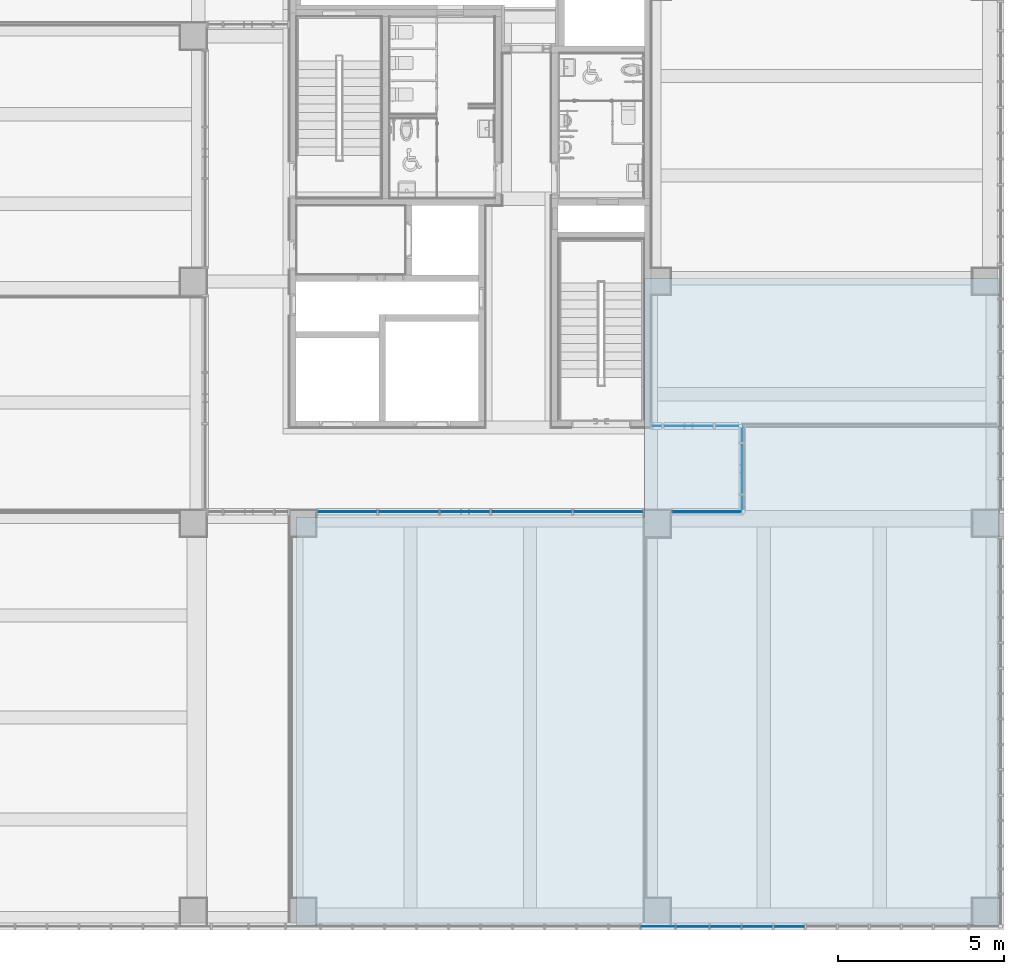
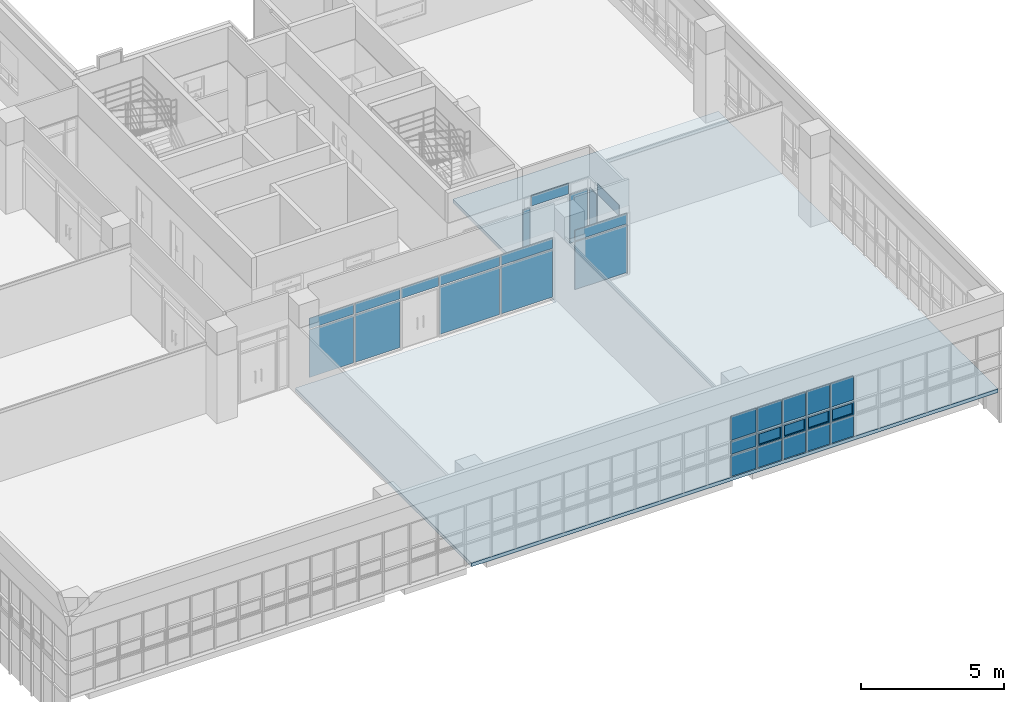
# One storey, part 27 of 81: 32 plates, 1 slab, 5 elements without a shape of their own.
"""IFC2X3 building model written with IfcOpenShell, lengths in millimetres."""

from ifc_helpers import new_model, entity, si_unit, converted_unit, derived_unit, direction, frame, origin, origin_2d_with_axis, place, context, subcontext, project, spatial, polyline, rectangle, outline, extrude, source, transform, mapped, material, material_list, layer, layer_set, layer_usage, type_object, type_shapes, element, aggregate, save


model = new_model("IFC2X3")

# Units and contexts
model_context = context("Model", 3, precision=0.01, world=origin(), true_north=direction((6.123031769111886e-17, 1.0)))
body_context = subcontext(model_context, "Body", "Model", "MODEL_VIEW")
ifc_project = project(units=[si_unit("LENGTHUNIT", "METRE", prefix="MILLI"), si_unit("AREAUNIT", "SQUARE_METRE"), si_unit("VOLUMEUNIT", "CUBIC_METRE"), converted_unit("PLANEANGLEUNIT", "DEGREE", entity("IfcRatioMeasure", 0.017453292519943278), si_unit("PLANEANGLEUNIT", "RADIAN"), dimensions=[0, 0, 0, 0, 0, 0, 0]), si_unit("MASSUNIT", "GRAM", prefix="KILO"), derived_unit("MASSDENSITYUNIT", [(si_unit("MASSUNIT", "GRAM", prefix="KILO"), 1), (si_unit("LENGTHUNIT", "METRE"), -3)]), derived_unit("MOMENTOFINERTIAUNIT", [(si_unit("LENGTHUNIT", "METRE"), 4)]), si_unit("TIMEUNIT", "SECOND"), si_unit("FREQUENCYUNIT", "HERTZ"), si_unit("THERMODYNAMICTEMPERATUREUNIT", "DEGREE_CELSIUS"), derived_unit("THERMALTRANSMITTANCEUNIT", [(si_unit("MASSUNIT", "GRAM", prefix="KILO"), 1), (si_unit("THERMODYNAMICTEMPERATUREUNIT", "KELVIN"), -1), (si_unit("TIMEUNIT", "SECOND"), -3)]), derived_unit("VOLUMETRICFLOWRATEUNIT", [(si_unit("LENGTHUNIT", "METRE"), 3), (si_unit("TIMEUNIT", "SECOND"), -1)]), derived_unit("MASSFLOWRATEUNIT", [(si_unit("MASSUNIT", "GRAM", prefix="KILO"), 1), (si_unit("TIMEUNIT", "SECOND"), -1)]), derived_unit("ROTATIONALFREQUENCYUNIT", [(si_unit("TIMEUNIT", "SECOND"), -1)]), si_unit("ELECTRICCURRENTUNIT", "AMPERE"), si_unit("ELECTRICVOLTAGEUNIT", "VOLT"), si_unit("POWERUNIT", "WATT"), si_unit("FORCEUNIT", "NEWTON", prefix="KILO"), si_unit("ILLUMINANCEUNIT", "LUX"), si_unit("LUMINOUSFLUXUNIT", "LUMEN"), si_unit("LUMINOUSINTENSITYUNIT", "CANDELA"), derived_unit("USERDEFINED", [(si_unit("MASSUNIT", "GRAM", prefix="KILO"), -1), (si_unit("LENGTHUNIT", "METRE"), -2), (si_unit("TIMEUNIT", "SECOND"), 3), (si_unit("LUMINOUSFLUXUNIT", "LUMEN"), 1)]), derived_unit("SOUNDPOWERUNIT", [(si_unit("MASSUNIT", "GRAM", prefix="KILO"), 1), (si_unit("LENGTHUNIT", "METRE"), 2), (si_unit("TIMEUNIT", "SECOND"), -3)]), derived_unit("SOUNDPRESSUREUNIT", [(si_unit("MASSUNIT", "GRAM", prefix="KILO"), 1), (si_unit("LENGTHUNIT", "METRE"), -1), (si_unit("TIMEUNIT", "SECOND"), -2)]), derived_unit("LINEARVELOCITYUNIT", [(si_unit("LENGTHUNIT", "METRE"), 1), (si_unit("TIMEUNIT", "SECOND"), -1)]), si_unit("PRESSUREUNIT", "PASCAL"), derived_unit("USERDEFINED", [(si_unit("LENGTHUNIT", "METRE"), -2), (si_unit("MASSUNIT", "GRAM", prefix="KILO"), 1), (si_unit("TIMEUNIT", "SECOND"), -2)]), derived_unit("LINEARFORCEUNIT", [(si_unit("MASSUNIT", "GRAM", prefix="KILO"), 1), (si_unit("LENGTHUNIT", "METRE"), 1), (si_unit("TIMEUNIT", "SECOND"), -2), (si_unit("LENGTHUNIT", "METRE"), -1)]), derived_unit("PLANARFORCEUNIT", [(si_unit("MASSUNIT", "GRAM", prefix="KILO"), 1), (si_unit("LENGTHUNIT", "METRE"), 1), (si_unit("TIMEUNIT", "SECOND"), -2), (si_unit("LENGTHUNIT", "METRE"), -2)])], contexts=[model_context])

# Site, building, storey
site_placement = place(None, frame((-14167.972527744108, -657.2125860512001, 0.0)))
site = spatial("IfcSite", under=ifc_project, at=site_placement, Name="Default", CompositionType="ELEMENT")
building_placement = place(site_placement, origin())
building = spatial("IfcBuilding", under=site, at=building_placement, Name="Sample Building", CompositionType="ELEMENT")
storey_placement = place(building_placement, frame((0.0, 0.0, 13400.0)))
storey = spatial("IfcBuildingStorey", under=building, at=storey_placement, Name="지상 4층", CompositionType="ELEMENT", Elevation=13400.00000000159)

# Slab
ifc_material_1 = material(Name="KBIMS-콘크리트")
ifc_layer = layer(ifc_material_1, 150.0)
ifc_layer_set = layer_set([ifc_layer], Name="바닥:SL111-철근콘크리트구조 바닥 150mm_S2")
ifc_layer_usage = layer_usage(ifc_layer_set, "AXIS3", "POSITIVE", 0.0)
slab_type = type_object("IfcSlabType", Name="바닥:SL111-철근콘크리트구조 바닥 150mm_S2", PredefinedType="FLOOR", material=ifc_layer_set)
slab_placement = place(storey_placement, origin())
element("IfcSlab", 1, at=slab_placement, inside=storey, type_object=slab_type, material=ifc_layer_usage, Name="바닥:SL111-철근콘크리트구조 바닥 150mm_S2", ObjectType="바닥:SL111-철근콘크리트구조 바닥 150mm_S2", PredefinedType="FLOOR", context=body_context, shape_type="SweptSolid", body=[
    extrude(outline(polyline([(-10600.000054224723, -10566.663779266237), (1700.000045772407, -10566.663779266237), (1700.000045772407, -66.6724722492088), (8900.0, -66.67247224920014), (8900.0, 10633.336251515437), (-10600.000054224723, 10633.33625151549), (-10600.000054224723, -10566.663779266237)])), frame((40834.627577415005, 11157.212249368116, 0.0), z_axis=(0.0, 0.0, -1.0), x_axis=(0.0, 1.0, 0.0)), (0.0, 0.0, 1.0), 150.00000000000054),
])

# Curtain wall, plate
curtain_wall_type = type_object("IfcCurtainWallType", Name="커튼월:CW112-스테인리스 스틸 커튼월", PredefinedType="NOTDEFINED")
curtain_wall_1_placement = place(storey_placement, frame((0.0, 0.0, -13400.0)))
curtain_wall_1 = element("IfcCurtainWall", 2, at=curtain_wall_1_placement, inside=storey, type_object=curtain_wall_type, Name="커튼월:CW112-스테인리스 스틸 커튼월", ObjectType="커튼월:CW112-스테인리스 스틸 커튼월")
ifc_material_2 = material(Name="KBIMS-로이유리(코팅)")
plate_type_1 = type_object("IfcPlateType", Name="CW300-THK24.Low-e coating glass:CW300-THK24.Low-e coating glass", PredefinedType="CURTAIN_PANEL", material=ifc_material_2)
shared_shape_1 = source(origin(), body_context, "Body", "SweptSolid", [
    extrude(rectangle(XDim=1500.0000000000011, YDim=24.000000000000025, at=origin_2d_with_axis()), frame((0.0, 0.0, 0.0), z_axis=(0.0, 0.0, 1.0), x_axis=(-1.0, 0.0, 0.0)), (0.0, 0.0, 1.0), 445.00000000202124),
])
type_shapes(plate_type_1, [shared_shape_1])
plate_1_placement = place(curtain_wall_1_placement, frame((35362.97249113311, 13012.212617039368, 15605.0)))
plate_1 = element("IfcPlate", 3, at=plate_1_placement, type_object=plate_type_1, material=ifc_material_2, Name="CW300-THK24.Low-e coating glass:CW300-THK24.Low-e coating glass", ObjectType="CW300-THK24.Low-e coating glass:CW300-THK24.Low-e coating glass", context=body_context, shape_type="MappedRepresentation", body=[
    mapped(shared_shape_1, transform((0.0, 0.0, 0.0), scale=1.0)),
])

curtain_wall_2_placement = place(storey_placement, frame((0.0, 0.0, -13400.0)))
curtain_wall_2 = element("IfcCurtainWall", 4, at=curtain_wall_2_placement, inside=storey, type_object=curtain_wall_type, Name="커튼월:CW112-스테인리스 스틸 커튼월", ObjectType="커튼월:CW112-스테인리스 스틸 커튼월")
plate_2_placement = place(curtain_wall_2_placement, frame((43717.972491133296, 14312.177678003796, 15605.0), z_axis=(0.0, 0.0, 1.0), x_axis=(0.0, 1.0, 0.0)))
plate_2 = element("IfcPlate", 5, at=plate_2_placement, type_object=plate_type_1, material=ifc_material_2, Name="CW300-THK24.Low-e coating glass:CW300-THK24.Low-e coating glass", ObjectType="CW300-THK24.Low-e coating glass:CW300-THK24.Low-e coating glass", context=body_context, shape_type="MappedRepresentation", body=[
    mapped(shared_shape_1, transform((0.0, 0.0, 0.0), scale=1.0)),
])

# Plate
plate_type_2 = type_object("IfcPlateType", Name="CW300-THK24.Low-e coating glass:CW300-THK24.Low-e coating glass", PredefinedType="CURTAIN_PANEL", material=ifc_material_2)
shared_shape_2 = source(origin(), body_context, "Body", "SweptSolid", [
    extrude(rectangle(XDim=1785.0000000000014, YDim=24.000000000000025, at=origin_2d_with_axis()), frame((0.0, 0.0, 0.0), z_axis=(0.0, 0.0, 1.0), x_axis=(-1.0, 0.0, 0.0)), (0.0, 0.0, 1.0), 2024.9999999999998),
])
type_shapes(plate_type_2, [shared_shape_2])
plate_3_placement = place(curtain_wall_1_placement, frame((31810.47249113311, 13012.212617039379, 13530.0)))
plate_3 = element("IfcPlate", 6, at=plate_3_placement, type_object=plate_type_2, material=ifc_material_2, Name="CW300-THK24.Low-e coating glass:CW300-THK24.Low-e coating glass", ObjectType="CW300-THK24.Low-e coating glass:CW300-THK24.Low-e coating glass", context=body_context, shape_type="MappedRepresentation", body=[
    mapped(shared_shape_2, transform((0.0, 0.0, 0.0), scale=1.0)),
])

plate_type_3 = type_object("IfcPlateType", Name="CW300-THK24.Low-e coating glass:CW300-THK24.Low-e coating glass", PredefinedType="CURTAIN_PANEL", material=ifc_material_2)
shared_shape_3 = source(origin(), body_context, "Body", "SweptSolid", [
    extrude(rectangle(XDim=1810.0000000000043, YDim=24.000000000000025, at=origin_2d_with_axis()), frame((0.0, 0.0, 0.0), z_axis=(0.0, 0.0, 1.0), x_axis=(-1.0, 0.0, 0.0)), (0.0, 0.0, 1.0), 2024.9999999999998),
])
type_shapes(plate_type_3, [shared_shape_3])
plate_4_placement = place(curtain_wall_1_placement, frame((33657.972491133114, 13012.212617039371, 13530.0)))
plate_4 = element("IfcPlate", 7, at=plate_4_placement, type_object=plate_type_3, material=ifc_material_2, Name="CW300-THK24.Low-e coating glass:CW300-THK24.Low-e coating glass", ObjectType="CW300-THK24.Low-e coating glass:CW300-THK24.Low-e coating glass", context=body_context, shape_type="MappedRepresentation", body=[
    mapped(shared_shape_3, transform((0.0, 0.0, 0.0), scale=1.0)),
])

plate_type_4 = type_object("IfcPlateType", Name="CW300-THK24.Low-e coating glass:CW300-THK24.Low-e coating glass", PredefinedType="CURTAIN_PANEL", material=ifc_material_2)
shared_shape_4 = source(origin(), body_context, "Body", "SweptSolid", [
    extrude(rectangle(XDim=2420.000000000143, YDim=24.000000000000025, at=origin_2d_with_axis()), frame((0.0, 0.0, 0.0), z_axis=(0.0, 0.0, 1.0), x_axis=(-1.0, 0.0, 0.0)), (0.0, 0.0, 1.0), 2024.9999999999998),
])
type_shapes(plate_type_4, [shared_shape_4])
plate_5_placement = place(curtain_wall_1_placement, frame((37372.97249113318, 13012.21261703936, 13530.0)))
plate_5 = element("IfcPlate", 8, at=plate_5_placement, type_object=plate_type_4, material=ifc_material_2, Name="CW300-THK24.Low-e coating glass:CW300-THK24.Low-e coating glass", ObjectType="CW300-THK24.Low-e coating glass:CW300-THK24.Low-e coating glass", context=body_context, shape_type="MappedRepresentation", body=[
    mapped(shared_shape_4, transform((0.0, 0.0, 0.0), scale=1.0)),
])

plate_type_5 = type_object("IfcPlateType", Name="CW300-THK24.Low-e coating glass:CW300-THK24.Low-e coating glass", PredefinedType="CURTAIN_PANEL", material=ifc_material_2)
shared_shape_5 = source(origin(), body_context, "Body", "SweptSolid", [
    extrude(rectangle(XDim=2084.9999999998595, YDim=24.000000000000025, at=origin_2d_with_axis()), frame((0.0, 0.0, 0.0), z_axis=(0.0, 0.0, 1.0), x_axis=(-1.0, 0.0, 0.0)), (0.0, 0.0, 1.0), 2024.9999999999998),
])
type_shapes(plate_type_5, [shared_shape_5])
plate_6_placement = place(curtain_wall_1_placement, frame((39675.47249113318, 13012.212617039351, 13530.0)))
plate_6 = element("IfcPlate", 9, at=plate_6_placement, type_object=plate_type_5, material=ifc_material_2, Name="CW300-THK24.Low-e coating glass:CW300-THK24.Low-e coating glass", ObjectType="CW300-THK24.Low-e coating glass:CW300-THK24.Low-e coating glass", context=body_context, shape_type="MappedRepresentation", body=[
    mapped(shared_shape_5, transform((0.0, 0.0, 0.0), scale=1.0)),
])

# Curtain wall, plate
curtain_wall_3_placement = place(storey_placement, frame((0.0, 0.0, -13400.0)))
curtain_wall_3 = element("IfcCurtainWall", 10, at=curtain_wall_3_placement, inside=storey, type_object=curtain_wall_type, Name="커튼월:CW112-스테인리스 스틸 커튼월", ObjectType="커튼월:CW112-스테인리스 스틸 커튼월")
plate_7_placement = place(curtain_wall_3_placement, frame((42660.47249113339, 13012.212383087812, 13530.0)))
plate_7 = element("IfcPlate", 11, at=plate_7_placement, type_object=plate_type_5, material=ifc_material_2, Name="CW300-THK24.Low-e coating glass:CW300-THK24.Low-e coating glass", ObjectType="CW300-THK24.Low-e coating glass:CW300-THK24.Low-e coating glass", context=body_context, shape_type="MappedRepresentation", body=[
    mapped(shared_shape_5, transform((0.0, 0.0, 0.0), scale=1.0)),
])

# Plate
plate_type_6 = type_object("IfcPlateType", Name="CW300-THK24.Low-e coating glass:CW300-THK24.Low-e coating glass", PredefinedType="CURTAIN_PANEL", material=ifc_material_2)
shared_shape_6 = source(origin(), body_context, "Body", "SweptSolid", [
    extrude(rectangle(XDim=1810.0, YDim=24.000000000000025, at=origin_2d_with_axis()), frame((0.0, 0.0, 0.0), z_axis=(0.0, 0.0, 1.0), x_axis=(-1.0, 0.0, 0.0)), (0.0, 0.0, 1.0), 445.00000000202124),
])
type_shapes(plate_type_6, [shared_shape_6])
plate_8_placement = place(curtain_wall_1_placement, frame((33657.972491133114, 13012.212617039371, 15605.0)))
plate_8 = element("IfcPlate", 12, at=plate_8_placement, type_object=plate_type_6, material=ifc_material_2, Name="CW300-THK24.Low-e coating glass:CW300-THK24.Low-e coating glass", ObjectType="CW300-THK24.Low-e coating glass:CW300-THK24.Low-e coating glass", context=body_context, shape_type="MappedRepresentation", body=[
    mapped(shared_shape_6, transform((0.0, 0.0, 0.0), scale=1.0)),
])

plate_type_7 = type_object("IfcPlateType", Name="CW300-THK24.Low-e coating glass:CW300-THK24.Low-e coating glass", PredefinedType="CURTAIN_PANEL", material=ifc_material_2)
shared_shape_7 = source(origin(), body_context, "Body", "SweptSolid", [
    extrude(rectangle(XDim=2084.9999999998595, YDim=24.000000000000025, at=origin_2d_with_axis()), frame((0.0, 0.0, 0.0), z_axis=(0.0, 0.0, 1.0), x_axis=(-1.0, 0.0, 0.0)), (0.0, 0.0, 1.0), 445.00000000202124),
])
type_shapes(plate_type_7, [shared_shape_7])
plate_9_placement = place(curtain_wall_1_placement, frame((39675.47249113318, 13012.212617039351, 15605.0)))
plate_9 = element("IfcPlate", 13, at=plate_9_placement, type_object=plate_type_7, material=ifc_material_2, Name="CW300-THK24.Low-e coating glass:CW300-THK24.Low-e coating glass", ObjectType="CW300-THK24.Low-e coating glass:CW300-THK24.Low-e coating glass", context=body_context, shape_type="MappedRepresentation", body=[
    mapped(shared_shape_7, transform((0.0, 0.0, 0.0), scale=1.0)),
])

plate_10_placement = place(curtain_wall_3_placement, frame((42660.47249113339, 13012.212383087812, 15605.0)))
plate_10 = element("IfcPlate", 14, at=plate_10_placement, type_object=plate_type_7, material=ifc_material_2, Name="CW300-THK24.Low-e coating glass:CW300-THK24.Low-e coating glass", ObjectType="CW300-THK24.Low-e coating glass:CW300-THK24.Low-e coating glass", context=body_context, shape_type="MappedRepresentation", body=[
    mapped(shared_shape_7, transform((0.0, 0.0, 0.0), scale=1.0)),
])

aggregate(curtain_wall_3, [plate_7, plate_10])

# Curtain wall, plates
curtain_wall_4_placement = place(storey_placement, frame((0.0, 0.0, -13400.0)))
curtain_wall_4 = element("IfcCurtainWall", 15, at=curtain_wall_4_placement, inside=storey, type_object=curtain_wall_type, Name="커튼월:CW112-스테인리스 스틸 커튼월", ObjectType="커튼월:CW112-스테인리스 스틸 커튼월")
ifc_material_3 = material(Name="KBIMS-유리")
ifc_material_4 = material(Name="KBIMS-알루미늄")
ifc_material_list_1 = material_list([ifc_material_3, ifc_material_4])
ifc_material_list_2 = material_list([ifc_material_3, ifc_material_4])
plate_type_8 = type_object("IfcPlateType", Name="CW410-프로젝트 창:CW410-프로젝트 창 (하부개폐)", PredefinedType="CURTAIN_PANEL", material=ifc_material_list_2)
shared_shape_8 = source(origin(), body_context, "Body", "SweptSolid", [
    extrude(rectangle(XDim=815.0000000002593, YDim=23.999999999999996, at=origin_2d_with_axis()), frame((0.0, -0.04999999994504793, 50.0), z_axis=(0.0, 0.0, 1.0), x_axis=(-1.0, 0.0, 0.0)), (0.0, 0.0, 1.0), 450.0000000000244),
    extrude(outline(polyline([(-457.4999999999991, -275.0), (457.4999999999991, -275.0), (457.4999999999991, 275.0), (-457.4999999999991, 275.0), (-457.4999999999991, -275.0)]), holes=[polyline([(-407.50000000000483, -225.0), (-407.5000000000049, 225.0), (407.50000000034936, 225.0), (407.50000000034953, -225.0), (-407.50000000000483, -225.0)])]), frame((0.0, -50.04999999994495, 275.0), z_axis=(0.0, 1.0, 0.0), x_axis=(1.0, 0.0, 0.0)), (0.0, 0.0, 1.0), 99.99999999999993),
])
type_shapes(plate_type_8, [shared_shape_8])
plate_11_placement = place(curtain_wall_4_placement, frame((43212.656070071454, 507.21229514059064, 14425.0)))
plate_11 = element("IfcPlate", 16, at=plate_11_placement, type_object=plate_type_8, material=ifc_material_list_1, Name="CW410-프로젝트 창:CW410-프로젝트 창 (하부개폐)", ObjectType="CW410-프로젝트 창:CW410-프로젝트 창 (하부개폐)", context=body_context, shape_type="MappedRepresentation", body=[
    mapped(shared_shape_8, transform((0.0, 0.0, 0.0), scale=1.0)),
])
ifc_material_list_3 = material_list([ifc_material_3, ifc_material_4])
plate_12_placement = place(curtain_wall_4_placement, frame((44177.65607007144, 507.2122951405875, 14425.0)))
plate_12 = element("IfcPlate", 17, at=plate_12_placement, type_object=plate_type_8, material=ifc_material_list_3, Name="CW410-프로젝트 창:CW410-프로젝트 창 (하부개폐)", ObjectType="CW410-프로젝트 창:CW410-프로젝트 창 (하부개폐)", context=body_context, shape_type="MappedRepresentation", body=[
    mapped(shared_shape_8, transform((0.0, 0.0, 0.0), scale=1.0)),
])
ifc_material_list_4 = material_list([ifc_material_3, ifc_material_4])
plate_13_placement = place(curtain_wall_4_placement, frame((45142.65607007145, 507.21229514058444, 14425.0)))
plate_13 = element("IfcPlate", 18, at=plate_13_placement, type_object=plate_type_8, material=ifc_material_list_4, Name="CW410-프로젝트 창:CW410-프로젝트 창 (하부개폐)", ObjectType="CW410-프로젝트 창:CW410-프로젝트 창 (하부개폐)", context=body_context, shape_type="MappedRepresentation", body=[
    mapped(shared_shape_8, transform((0.0, 0.0, 0.0), scale=1.0)),
])
plate_type_9 = type_object("IfcPlateType", Name="CW300-THK24.Low-e coating glass:CW300-THK24.Low-e coating glass", PredefinedType="CURTAIN_PANEL", material=ifc_material_2)
shared_shape_9 = source(origin(), body_context, "Body", "SweptSolid", [
    extrude(rectangle(XDim=1010.0, YDim=24.000000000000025, at=origin_2d_with_axis()), frame((0.0, 0.0, 0.0), z_axis=(0.0, 0.0, 1.0), x_axis=(-1.0, 0.0, 0.0)), (0.0, 0.0, 1.0), 549.9999999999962),
])
type_shapes(plate_type_9, [shared_shape_9])
plate_14_placement = place(curtain_wall_4_placement, frame((41180.15607007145, 507.21229514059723, 14425.0)))
plate_14 = element("IfcPlate", 19, at=plate_14_placement, type_object=plate_type_9, material=ifc_material_2, Name="CW300-THK24.Low-e coating glass:CW300-THK24.Low-e coating glass", ObjectType="CW300-THK24.Low-e coating glass:CW300-THK24.Low-e coating glass", context=body_context, shape_type="MappedRepresentation", body=[
    mapped(shared_shape_9, transform((0.0, 0.0, 0.0), scale=1.0)),
])
ifc_material_list_5 = material_list([ifc_material_3, ifc_material_4])
ifc_material_list_6 = material_list([ifc_material_3, ifc_material_4])
plate_type_10 = type_object("IfcPlateType", Name="CW410-프로젝트 창:CW410-프로젝트 창 (하부개폐)", PredefinedType="CURTAIN_PANEL", material=ifc_material_list_6)
shared_shape_10 = source(origin(), body_context, "Body", "SweptSolid", [
    extrude(rectangle(XDim=870.0000000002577, YDim=23.999999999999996, at=origin_2d_with_axis()), frame((0.0, -0.04999999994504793, 50.0), z_axis=(0.0, 0.0, 1.0), x_axis=(-1.0, 0.0, 0.0)), (0.0, 0.0, 1.0), 450.0000000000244),
    extrude(outline(polyline([(-485.0, -275.0), (485.0, -275.0), (485.0, 275.0), (-485.0, 275.0), (-485.0, -275.0)]), holes=[polyline([(-435.0, -225.0), (-435.0, 225.0), (435.0, 225.0), (435.0, -225.0), (-435.0, -225.0)])]), frame((0.0, -50.04999999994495, 275.0), z_axis=(0.0, 1.0, 0.0), x_axis=(1.0, 0.0, 0.0)), (0.0, 0.0, 1.0), 99.99999999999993),
])
type_shapes(plate_type_10, [shared_shape_10])
plate_15_placement = place(curtain_wall_4_placement, frame((42220.15607007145, 507.2122951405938, 14425.0)))
plate_15 = element("IfcPlate", 20, at=plate_15_placement, type_object=plate_type_10, material=ifc_material_list_5, Name="CW410-프로젝트 창:CW410-프로젝트 창 (하부개폐)", ObjectType="CW410-프로젝트 창:CW410-프로젝트 창 (하부개폐)", context=body_context, shape_type="MappedRepresentation", body=[
    mapped(shared_shape_10, transform((0.0, 0.0, 0.0), scale=1.0)),
])
plate_type_11 = type_object("IfcPlateType", Name="CW300-THK24.Low-e coating glass:CW300-THK24.Low-e coating glass", PredefinedType="CURTAIN_PANEL", material=ifc_material_2)
shared_shape_11 = source(origin(), body_context, "Body", "SweptSolid", [
    extrude(rectangle(XDim=914.9999999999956, YDim=24.000000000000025, at=origin_2d_with_axis()), frame((0.0, 0.0, 0.0), z_axis=(0.0, 0.0, 1.0), x_axis=(-1.0, 0.0, 0.0)), (0.0, 0.0, 1.0), 894.9999999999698),
])
type_shapes(plate_type_11, [shared_shape_11])
plate_16_placement = place(curtain_wall_4_placement, frame((43212.656070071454, 507.21229514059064, 13480.0)))
plate_16 = element("IfcPlate", 21, at=plate_16_placement, type_object=plate_type_11, material=ifc_material_2, Name="CW300-THK24.Low-e coating glass:CW300-THK24.Low-e coating glass", ObjectType="CW300-THK24.Low-e coating glass:CW300-THK24.Low-e coating glass", context=body_context, shape_type="MappedRepresentation", body=[
    mapped(shared_shape_11, transform((0.0, 0.0, 0.0), scale=1.0)),
])
plate_17_placement = place(curtain_wall_4_placement, frame((44177.65607007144, 507.2122951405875, 13480.0)))
plate_17 = element("IfcPlate", 22, at=plate_17_placement, type_object=plate_type_11, material=ifc_material_2, Name="CW300-THK24.Low-e coating glass:CW300-THK24.Low-e coating glass", ObjectType="CW300-THK24.Low-e coating glass:CW300-THK24.Low-e coating glass", context=body_context, shape_type="MappedRepresentation", body=[
    mapped(shared_shape_11, transform((0.0, 0.0, 0.0), scale=1.0)),
])
plate_18_placement = place(curtain_wall_4_placement, frame((45142.65607007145, 507.21229514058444, 13480.0)))
plate_18 = element("IfcPlate", 23, at=plate_18_placement, type_object=plate_type_11, material=ifc_material_2, Name="CW300-THK24.Low-e coating glass:CW300-THK24.Low-e coating glass", ObjectType="CW300-THK24.Low-e coating glass:CW300-THK24.Low-e coating glass", context=body_context, shape_type="MappedRepresentation", body=[
    mapped(shared_shape_11, transform((0.0, 0.0, 0.0), scale=1.0)),
])
plate_type_12 = type_object("IfcPlateType", Name="CW300-THK24.Low-e coating glass:CW300-THK24.Low-e coating glass", PredefinedType="CURTAIN_PANEL", material=ifc_material_2)
shared_shape_12 = source(origin(), body_context, "Body", "SweptSolid", [
    extrude(rectangle(XDim=1009.9999999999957, YDim=24.000000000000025, at=origin_2d_with_axis()), frame((0.0, 0.0, 0.0), z_axis=(0.0, 0.0, 1.0), x_axis=(-1.0, 0.0, 0.0)), (0.0, 0.0, 1.0), 894.9999999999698),
])
type_shapes(plate_type_12, [shared_shape_12])
plate_19_placement = place(curtain_wall_4_placement, frame((41180.15607007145, 507.21229514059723, 13480.0)))
plate_19 = element("IfcPlate", 24, at=plate_19_placement, type_object=plate_type_12, material=ifc_material_2, Name="CW300-THK24.Low-e coating glass:CW300-THK24.Low-e coating glass", ObjectType="CW300-THK24.Low-e coating glass:CW300-THK24.Low-e coating glass", context=body_context, shape_type="MappedRepresentation", body=[
    mapped(shared_shape_12, transform((0.0, 0.0, 0.0), scale=1.0)),
])
plate_type_13 = type_object("IfcPlateType", Name="CW300-THK24.Low-e coating glass:CW300-THK24.Low-e coating glass", PredefinedType="CURTAIN_PANEL", material=ifc_material_2)
shared_shape_13 = source(origin(), body_context, "Body", "SweptSolid", [
    extrude(rectangle(XDim=969.999999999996, YDim=24.000000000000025, at=origin_2d_with_axis()), frame((0.0, 0.0, 0.0), z_axis=(0.0, 0.0, 1.0), x_axis=(-1.0, 0.0, 0.0)), (0.0, 0.0, 1.0), 894.9999999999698),
])
type_shapes(plate_type_13, [shared_shape_13])
plate_20_placement = place(curtain_wall_4_placement, frame((42220.15607007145, 507.2122951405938, 13480.0)))
plate_20 = element("IfcPlate", 25, at=plate_20_placement, type_object=plate_type_13, material=ifc_material_2, Name="CW300-THK24.Low-e coating glass:CW300-THK24.Low-e coating glass", ObjectType="CW300-THK24.Low-e coating glass:CW300-THK24.Low-e coating glass", context=body_context, shape_type="MappedRepresentation", body=[
    mapped(shared_shape_13, transform((0.0, 0.0, 0.0), scale=1.0)),
])
plate_type_14 = type_object("IfcPlateType", Name="CW300-THK24.Low-e coating glass:CW300-THK24.Low-e coating glass", PredefinedType="CURTAIN_PANEL", material=ifc_material_2)
shared_shape_14 = source(origin(), body_context, "Body", "SweptSolid", [
    extrude(rectangle(XDim=914.9999999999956, YDim=24.000000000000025, at=origin_2d_with_axis()), frame((0.0, 0.0, 0.0), z_axis=(0.0, 0.0, 1.0), x_axis=(-1.0, 0.0, 0.0)), (0.0, 0.0, 1.0), 1025.0000000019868),
])
type_shapes(plate_type_14, [shared_shape_14])
plate_21_placement = place(curtain_wall_4_placement, frame((43212.656070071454, 507.21229514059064, 15025.0)))
plate_21 = element("IfcPlate", 26, at=plate_21_placement, type_object=plate_type_14, material=ifc_material_2, Name="CW300-THK24.Low-e coating glass:CW300-THK24.Low-e coating glass", ObjectType="CW300-THK24.Low-e coating glass:CW300-THK24.Low-e coating glass", context=body_context, shape_type="MappedRepresentation", body=[
    mapped(shared_shape_14, transform((0.0, 0.0, 0.0), scale=1.0)),
])
plate_22_placement = place(curtain_wall_4_placement, frame((44177.65607007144, 507.2122951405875, 15025.0)))
plate_22 = element("IfcPlate", 27, at=plate_22_placement, type_object=plate_type_14, material=ifc_material_2, Name="CW300-THK24.Low-e coating glass:CW300-THK24.Low-e coating glass", ObjectType="CW300-THK24.Low-e coating glass:CW300-THK24.Low-e coating glass", context=body_context, shape_type="MappedRepresentation", body=[
    mapped(shared_shape_14, transform((0.0, 0.0, 0.0), scale=1.0)),
])
plate_23_placement = place(curtain_wall_4_placement, frame((45142.65607007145, 507.21229514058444, 15025.0)))
plate_23 = element("IfcPlate", 28, at=plate_23_placement, type_object=plate_type_14, material=ifc_material_2, Name="CW300-THK24.Low-e coating glass:CW300-THK24.Low-e coating glass", ObjectType="CW300-THK24.Low-e coating glass:CW300-THK24.Low-e coating glass", context=body_context, shape_type="MappedRepresentation", body=[
    mapped(shared_shape_14, transform((0.0, 0.0, 0.0), scale=1.0)),
])
plate_type_15 = type_object("IfcPlateType", Name="CW300-THK24.Low-e coating glass:CW300-THK24.Low-e coating glass", PredefinedType="CURTAIN_PANEL", material=ifc_material_2)
shared_shape_15 = source(origin(), body_context, "Body", "SweptSolid", [
    extrude(rectangle(XDim=1010.0000000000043, YDim=24.000000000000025, at=origin_2d_with_axis()), frame((0.0, 0.0, 0.0), z_axis=(0.0, 0.0, 1.0), x_axis=(-1.0, 0.0, 0.0)), (0.0, 0.0, 1.0), 1025.0000000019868),
])
type_shapes(plate_type_15, [shared_shape_15])
plate_24_placement = place(curtain_wall_4_placement, frame((41180.15607007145, 507.21229514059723, 15025.0)))
plate_24 = element("IfcPlate", 29, at=plate_24_placement, type_object=plate_type_15, material=ifc_material_2, Name="CW300-THK24.Low-e coating glass:CW300-THK24.Low-e coating glass", ObjectType="CW300-THK24.Low-e coating glass:CW300-THK24.Low-e coating glass", context=body_context, shape_type="MappedRepresentation", body=[
    mapped(shared_shape_15, transform((0.0, 0.0, 0.0), scale=1.0)),
])
plate_type_16 = type_object("IfcPlateType", Name="CW300-THK24.Low-e coating glass:CW300-THK24.Low-e coating glass", PredefinedType="CURTAIN_PANEL", material=ifc_material_2)
shared_shape_16 = source(origin(), body_context, "Body", "SweptSolid", [
    extrude(rectangle(XDim=969.999999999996, YDim=24.000000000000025, at=origin_2d_with_axis()), frame((0.0, 0.0, 0.0), z_axis=(0.0, 0.0, 1.0), x_axis=(-1.0, 0.0, 0.0)), (0.0, 0.0, 1.0), 1025.0000000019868),
])
type_shapes(plate_type_16, [shared_shape_16])
plate_25_placement = place(curtain_wall_4_placement, frame((42220.15607007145, 507.2122951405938, 15025.0)))
plate_25 = element("IfcPlate", 30, at=plate_25_placement, type_object=plate_type_16, material=ifc_material_2, Name="CW300-THK24.Low-e coating glass:CW300-THK24.Low-e coating glass", ObjectType="CW300-THK24.Low-e coating glass:CW300-THK24.Low-e coating glass", context=body_context, shape_type="MappedRepresentation", body=[
    mapped(shared_shape_16, transform((0.0, 0.0, 0.0), scale=1.0)),
])
aggregate(curtain_wall_4, [plate_19, plate_20, plate_16, plate_17, plate_18, plate_14, plate_15, plate_11, plate_12, plate_13, plate_24, plate_25, plate_21, plate_22, plate_23])

# Plate
plate_type_17 = type_object("IfcPlateType", Name="CW300-THK24.Low-e coating glass:CW300-THK24.Low-e coating glass", PredefinedType="CURTAIN_PANEL", material=ifc_material_2)
shared_shape_17 = source(origin(), body_context, "Body", "SweptSolid", [
    extrude(rectangle(XDim=1785.0000000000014, YDim=24.000000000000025, at=origin_2d_with_axis()), frame((0.0, 0.0, 0.0), z_axis=(0.0, 0.0, 1.0), x_axis=(-1.0, 0.0, 0.0)), (0.0, 0.0, 1.0), 445.00000000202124),
])
type_shapes(plate_type_17, [shared_shape_17])
plate_26_placement = place(curtain_wall_1_placement, frame((31810.47249113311, 13012.212617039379, 15605.0)))
plate_26 = element("IfcPlate", 31, at=plate_26_placement, type_object=plate_type_17, material=ifc_material_2, Name="CW300-THK24.Low-e coating glass:CW300-THK24.Low-e coating glass", ObjectType="CW300-THK24.Low-e coating glass:CW300-THK24.Low-e coating glass", context=body_context, shape_type="MappedRepresentation", body=[
    mapped(shared_shape_17, transform((0.0, 0.0, 0.0), scale=1.0)),
])

plate_type_18 = type_object("IfcPlateType", Name="CW300-THK24.Low-e coating glass:CW300-THK24.Low-e coating glass", PredefinedType="CURTAIN_PANEL", material=ifc_material_2)
shared_shape_18 = source(origin(), body_context, "Body", "SweptSolid", [
    extrude(rectangle(XDim=2420.000000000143, YDim=24.000000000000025, at=origin_2d_with_axis()), frame((0.0, 0.0, 0.0), z_axis=(0.0, 0.0, 1.0), x_axis=(-1.0, 0.0, 0.0)), (0.0, 0.0, 1.0), 444.9999999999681),
])
type_shapes(plate_type_18, [shared_shape_18])
plate_27_placement = place(curtain_wall_1_placement, frame((37372.97249113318, 13012.21261703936, 15605.0)))
plate_27 = element("IfcPlate", 32, at=plate_27_placement, type_object=plate_type_18, material=ifc_material_2, Name="CW300-THK24.Low-e coating glass:CW300-THK24.Low-e coating glass", ObjectType="CW300-THK24.Low-e coating glass:CW300-THK24.Low-e coating glass", context=body_context, shape_type="MappedRepresentation", body=[
    mapped(shared_shape_18, transform((0.0, 0.0, 0.0), scale=1.0)),
])

aggregate(curtain_wall_1, [plate_3, plate_4, plate_5, plate_6, plate_26, plate_8, plate_1, plate_27, plate_9])

plate_type_19 = type_object("IfcPlateType", Name="CW300-THK24.Low-e coating glass:CW300-THK24.Low-e coating glass", PredefinedType="CURTAIN_PANEL", material=ifc_material_2)
shared_shape_19 = source(origin(), body_context, "Body", "SweptSolid", [
    extrude(rectangle(XDim=499.999999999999, YDim=24.000000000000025, at=origin_2d_with_axis()), frame((0.0, 0.0, 0.0), z_axis=(0.0, 0.0, 1.0), x_axis=(-1.0, 0.0, 0.0)), (0.0, 0.0, 1.0), 2075.0000000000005),
])
type_shapes(plate_type_19, [shared_shape_19])
plate_28_placement = place(curtain_wall_2_placement, frame((43717.972491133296, 13262.177678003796, 13480.0), z_axis=(0.0, 0.0, 1.0), x_axis=(0.0, 1.0, 0.0)))
plate_28 = element("IfcPlate", 33, at=plate_28_placement, type_object=plate_type_19, material=ifc_material_2, Name="CW300-THK24.Low-e coating glass:CW300-THK24.Low-e coating glass", ObjectType="CW300-THK24.Low-e coating glass:CW300-THK24.Low-e coating glass", context=body_context, shape_type="MappedRepresentation", body=[
    mapped(shared_shape_19, transform((0.0, 0.0, 0.0), scale=1.0)),
])

plate_type_20 = type_object("IfcPlateType", Name="CW300-THK24.Low-e coating glass:CW300-THK24.Low-e coating glass", PredefinedType="CURTAIN_PANEL", material=ifc_material_2)
shared_shape_20 = source(origin(), body_context, "Body", "SweptSolid", [
    extrude(rectangle(XDim=490.03490804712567, YDim=24.000000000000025, at=origin_2d_with_axis()), frame((0.0, 0.0, 0.0), z_axis=(0.0, 0.0, 1.0), x_axis=(-1.0, 0.0, 0.0)), (0.0, 0.0, 1.0), 2075.0000000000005),
])
type_shapes(plate_type_20, [shared_shape_20])
plate_29_placement = place(curtain_wall_2_placement, frame((43717.972491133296, 15357.19513202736, 13480.0), z_axis=(0.0, 0.0, 1.0), x_axis=(0.0, 1.0, 0.0)))
plate_29 = element("IfcPlate", 34, at=plate_29_placement, type_object=plate_type_20, material=ifc_material_2, Name="CW300-THK24.Low-e coating glass:CW300-THK24.Low-e coating glass", ObjectType="CW300-THK24.Low-e coating glass:CW300-THK24.Low-e coating glass", context=body_context, shape_type="MappedRepresentation", body=[
    mapped(shared_shape_20, transform((0.0, 0.0, 0.0), scale=1.0)),
])

aggregate(curtain_wall_2, [plate_28, plate_29, plate_2])

# Curtain wall, plates
curtain_wall_5_placement = place(storey_placement, frame((0.0, 0.0, -13400.0)))
curtain_wall_5 = element("IfcCurtainWall", 35, at=curtain_wall_5_placement, inside=storey, type_object=curtain_wall_type, Name="커튼월:CW112-스테인리스 스틸 커튼월", ObjectType="커튼월:CW112-스테인리스 스틸 커튼월")
plate_type_21 = type_object("IfcPlateType", Name="CW300-THK24.Low-e coating glass:CW300-THK24.Low-e coating glass", PredefinedType="CURTAIN_PANEL", material=ifc_material_2)
shared_shape_21 = source(origin(), body_context, "Body", "SweptSolid", [
    extrude(rectangle(XDim=714.9999999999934, YDim=24.000000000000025, at=origin_2d_with_axis()), frame((0.0, 0.0, 0.0), z_axis=(0.0, 0.0, 1.0), x_axis=(-1.0, 0.0, 0.0)), (0.0, 0.0, 1.0), 2075.0000000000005),
])
type_shapes(plate_type_21, [shared_shape_21])
plate_30_placement = place(curtain_wall_5_placement, frame((43260.472491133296, 15602.212586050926, 13480.0), z_axis=(0.0, 0.0, 1.0), x_axis=(-1.0, 0.0, 0.0)))
plate_30 = element("IfcPlate", 36, at=plate_30_placement, type_object=plate_type_21, material=ifc_material_2, Name="CW300-THK24.Low-e coating glass:CW300-THK24.Low-e coating glass", ObjectType="CW300-THK24.Low-e coating glass:CW300-THK24.Low-e coating glass", context=body_context, shape_type="MappedRepresentation", body=[
    mapped(shared_shape_21, transform((0.0, 0.0, 0.0), scale=1.0)),
])
plate_type_22 = type_object("IfcPlateType", Name="CW300-THK24.Low-e coating glass:CW300-THK24.Low-e coating glass", PredefinedType="CURTAIN_PANEL", material=ifc_material_2)
shared_shape_22 = source(origin(), body_context, "Body", "SweptSolid", [
    extrude(rectangle(XDim=280.0086929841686, YDim=24.000000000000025, at=origin_2d_with_axis()), frame((0.0, 0.0, 0.0), z_axis=(0.0, 0.0, 1.0), x_axis=(-1.0, 0.0, 0.0)), (0.0, 0.0, 1.0), 2075.0000000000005),
])
type_shapes(plate_type_22, [shared_shape_22])
plate_31_placement = place(curtain_wall_5_placement, frame((41157.968144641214, 15602.212586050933, 13480.0), z_axis=(0.0, 0.0, 1.0), x_axis=(-1.0, 0.0, 0.0)))
plate_31 = element("IfcPlate", 37, at=plate_31_placement, type_object=plate_type_22, material=ifc_material_2, Name="CW300-THK24.Low-e coating glass:CW300-THK24.Low-e coating glass", ObjectType="CW300-THK24.Low-e coating glass:CW300-THK24.Low-e coating glass", context=body_context, shape_type="MappedRepresentation", body=[
    mapped(shared_shape_22, transform((0.0, 0.0, 0.0), scale=1.0)),
])
plate_type_23 = type_object("IfcPlateType", Name="CW300-THK24.Low-e coating glass:CW300-THK24.Low-e coating glass", PredefinedType="CURTAIN_PANEL", material=ifc_material_2)
shared_shape_23 = source(origin(), body_context, "Body", "SweptSolid", [
    extrude(rectangle(XDim=1494.999999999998, YDim=24.000000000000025, at=origin_2d_with_axis()), frame((0.0, 0.0, 0.0), z_axis=(0.0, 0.0, 1.0), x_axis=(-1.0, 0.0, 0.0)), (0.0, 0.0, 1.0), 444.9999999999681),
])
type_shapes(plate_type_23, [shared_shape_23])
plate_32_placement = place(curtain_wall_5_placement, frame((42105.47249113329, 15602.212586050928, 15605.0), z_axis=(0.0, 0.0, 1.0), x_axis=(-1.0, 0.0, 0.0)))
plate_32 = element("IfcPlate", 38, at=plate_32_placement, type_object=plate_type_23, material=ifc_material_2, Name="CW300-THK24.Low-e coating glass:CW300-THK24.Low-e coating glass", ObjectType="CW300-THK24.Low-e coating glass:CW300-THK24.Low-e coating glass", context=body_context, shape_type="MappedRepresentation", body=[
    mapped(shared_shape_23, transform((0.0, 0.0, 0.0), scale=1.0)),
])
aggregate(curtain_wall_5, [plate_30, plate_31, plate_32])

save(model, "model.ifc")
